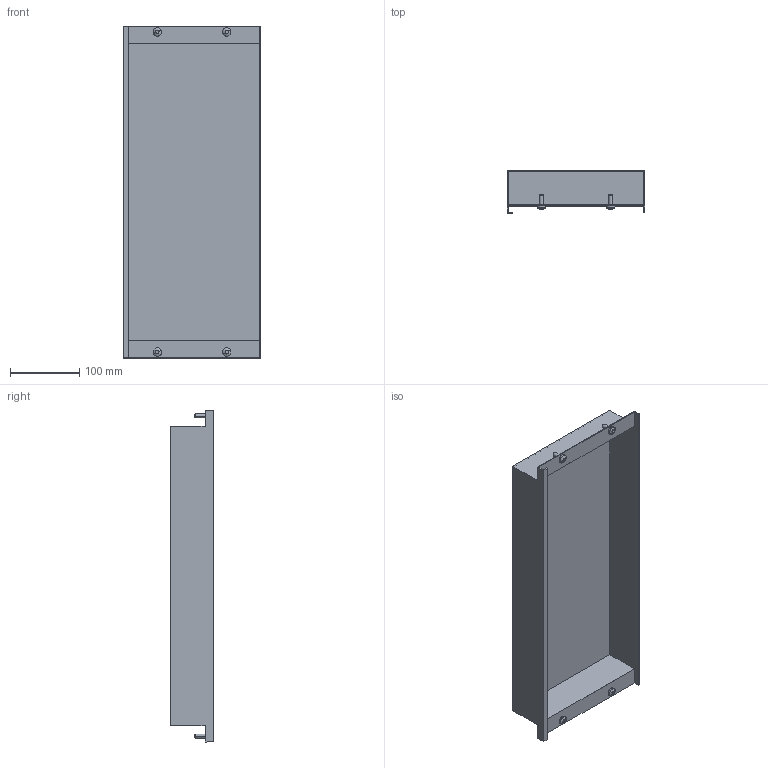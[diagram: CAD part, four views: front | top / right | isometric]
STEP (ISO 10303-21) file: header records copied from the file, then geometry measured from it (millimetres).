
FILE_DESCRIPTION (( 'STEP AP214' ), '1' );
FILE_NAME ('FO-00-PVSU-020-060 Ïëàñòðîí âíóòðåííèé óãëóáëåííûé 200õ600õ50.STEP', '2025-09-30T08:18:26', ( '' ), ( '' ), 'SwSTEP 2.0', 'SolidWorks 2023', '' );
FILE_SCHEMA (( 'AUTOMOTIVE_DESIGN' ));
Length unit declared in the file: millimetre
Products named in the file (3): FO-00-PVSU-020-060 Пластрон внутренний углубленный 200х600х50; Винты М6х16 20-60
Assembly tree (3 placements, depth 2):
  FO-00-PVSU-020-060 Пластрон внутренний углубленный 200х600х50
    FO-00-PVSU-020-060 Пластрон внутренний углубленный 200х600х50
    Винты М6х16 20-60  x2
Bounding box: 198 x 62.5 x 479 mm (x, y, z)
Volume: 241105.3 mm3; surface area: 344678.6 mm2
Topology: 5 solids, 5 shells, 150 faces, 392 edges, 256 vertices
Faces by surface type: cylinder 88, plane 42, cone 12, bspline 8
Entity records: 3233 total; most frequent: CARTESIAN_POINT 724, ORIENTED_EDGE 512, DIRECTION 500, EDGE_CURVE 256, AXIS2_PLACEMENT_3D 180, VERTEX_POINT 168, LINE 140, VECTOR 140
